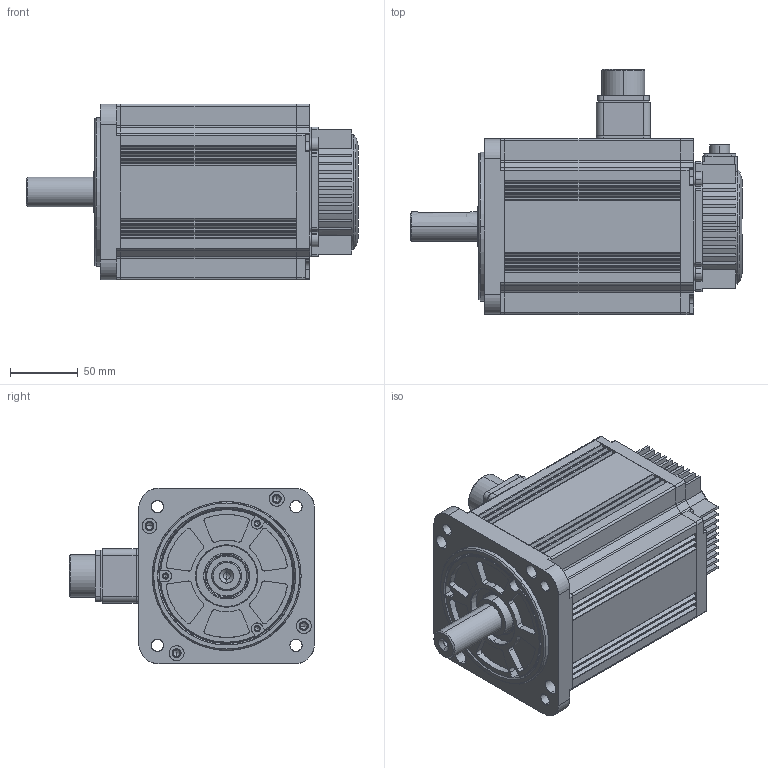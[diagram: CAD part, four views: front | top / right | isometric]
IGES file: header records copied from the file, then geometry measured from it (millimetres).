
Start section: SolidWorks IGES file using analytic representation for surfaces
Global section: file name: :\Users\anyongle\Desktop\二代130三维模型\EMG10A-100-P1-S1（带抱闸）.IGS; native system: SolidWorks 2012; preprocessor: SolidWorks 2012; author: anyongle; date: 140925.162738; units: millimetre
Bounding box: 245.5 x 181.3 x 130 mm (x, y, z)
Surface area: 373049.3 mm2 (no closed solid volume)
Topology: 0 solids, 0 shells, 1436 faces, 22638 edges, 22524 vertices
Faces by surface type: revolution 793, bspline 643
